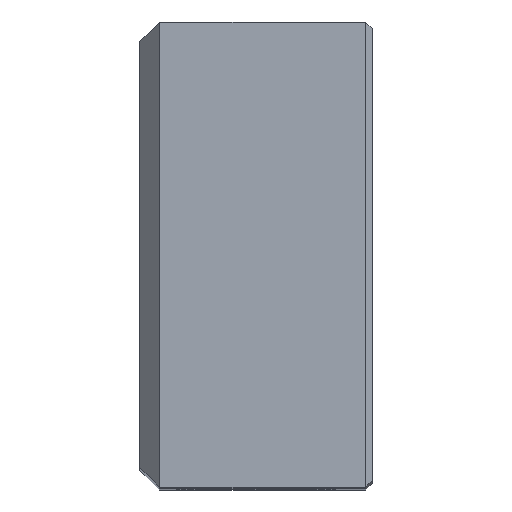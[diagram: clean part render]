
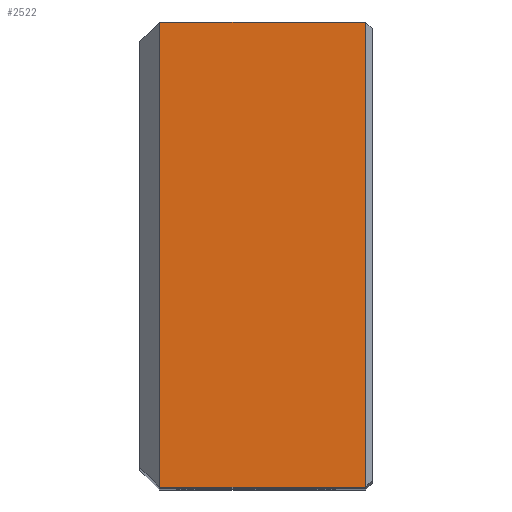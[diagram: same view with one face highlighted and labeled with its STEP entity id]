
A CAD part, top view. The second image highlights one B-rep face of the part: STEP entity #2522.
In plain terms, the highlighted planar face has unit normal (0, 0, 1).
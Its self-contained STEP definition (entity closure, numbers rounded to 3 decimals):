
#219=VERTEX_POINT(' ',#220);
#220=CARTESIAN_POINT('',(34.,-35.,0.));
#229=VERTEX_POINT(' ',#230);
#230=CARTESIAN_POINT('',(34.,35.,0.));
#263=VERTEX_POINT(' ',#264);
#264=CARTESIAN_POINT('',(3.,-35.,0.));
#269=VERTEX_POINT(' ',#270);
#270=CARTESIAN_POINT('',(3.,35.,0.));
#1203=LINE('',#1204,#1205);
#1204=CARTESIAN_POINT('',(34.,40.657,0.));
#1205=VECTOR('',#1206,1.);
#1206=DIRECTION('',(0.,-1.,0.));
#1207=EDGE_CURVE(' ',#229,#219,#1203,.T.);
#1373=LINE('',#1374,#1375);
#1374=CARTESIAN_POINT('',(35.12,-35.,0.));
#1375=VECTOR('',#1376,1.);
#1376=DIRECTION('',(-1.,0.,0.));
#1377=EDGE_CURVE(' ',#219,#263,#1373,.T.);
#1393=LINE('',#1394,#1395);
#1394=CARTESIAN_POINT('',(3.,-48.971,0.));
#1395=VECTOR('',#1396,1.);
#1396=DIRECTION('',(0.,1.,0.));
#1397=EDGE_CURVE(' ',#263,#269,#1393,.T.);
#1398=LINE('',#1399,#1400);
#1399=CARTESIAN_POINT('',(35.12,35.,0.));
#1400=VECTOR('',#1401,1.);
#1401=DIRECTION('',(-1.,0.,0.));
#1402=EDGE_CURVE(' ',#229,#269,#1398,.T.);
#2511=ORIENTED_EDGE('',*,*,#1397,.F.);
#2512=ORIENTED_EDGE('',*,*,#1377,.F.);
#2513=ORIENTED_EDGE('',*,*,#1207,.F.);
#2514=ORIENTED_EDGE('',*,*,#1402,.T.);
#2515=EDGE_LOOP('',(#2511,#2512,#2513,#2514));
#2516=FACE_OUTER_BOUND('',#2515,.T.);
#2517=PLANE('',#2518);
#2518=AXIS2_PLACEMENT_3D('',#2519,#2520,#2521);
#2519=CARTESIAN_POINT('',(0.,-35.,0.));
#2520=DIRECTION('',(0.,0.,1.));
#2521=DIRECTION('',(0.,1.,0.));
#2522=ADVANCED_FACE('',(#2516),#2517,.T.);
